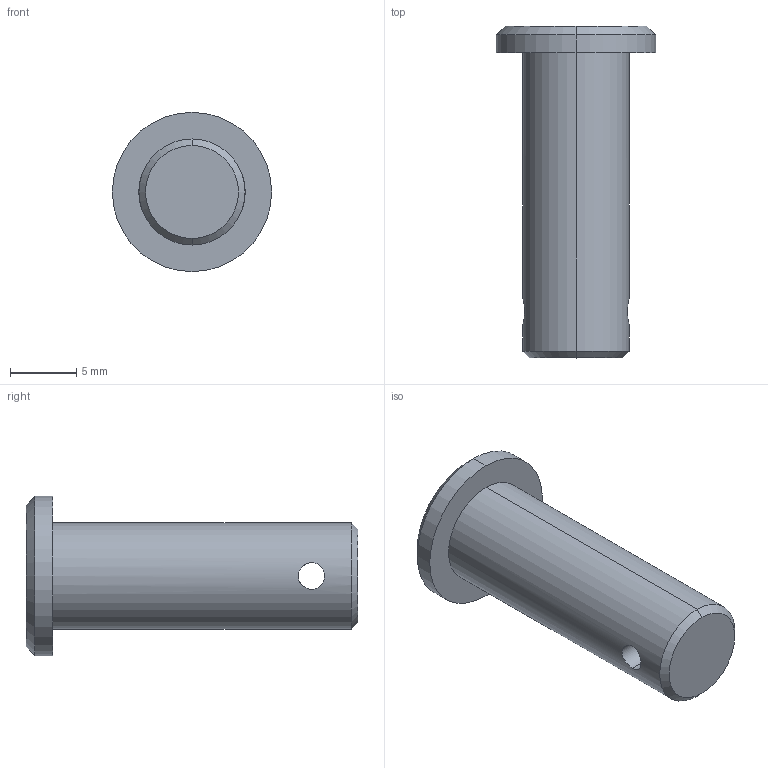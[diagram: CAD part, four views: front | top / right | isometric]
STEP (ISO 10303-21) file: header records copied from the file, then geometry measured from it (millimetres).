
FILE_DESCRIPTION (( 'STEP AP203' ), '1' );
FILE_NAME ('65660.W0108.step', '2023-10-06T09:58:44', ( '' ), ( '' ), 'SwSTEP 2.0', 'SolidWorks 2019', '' );
FILE_SCHEMA (( 'CONFIG_CONTROL_DESIGN' ));
Length unit declared in the file: millimetre
Products named in the file (1): 65660.W0108
Bounding box: 12 x 25 x 12 mm (x, y, z)
Volume: 1346.3 mm3; surface area: 899.8 mm2
Topology: 1 solids, 1 shells, 13 faces, 26 edges, 16 vertices
Faces by surface type: cylinder 6, cone 4, plane 3
Entity records: 481 total; most frequent: CARTESIAN_POINT 124, DIRECTION 62, ORIENTED_EDGE 52, EDGE_CURVE 26, AXIS2_PLACEMENT_3D 26, VERTEX_POINT 16, EDGE_LOOP 16, FACE_OUTER_BOUND 13
